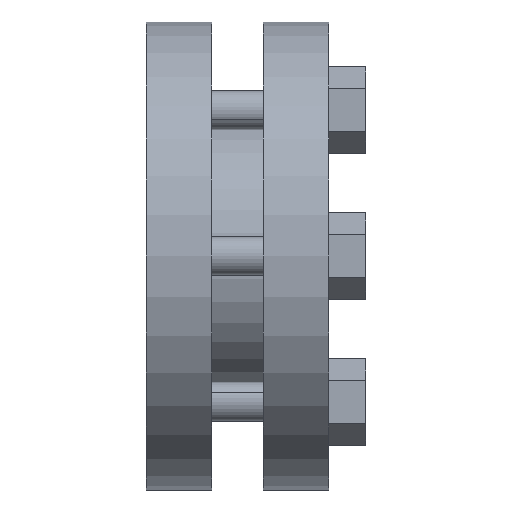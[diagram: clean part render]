
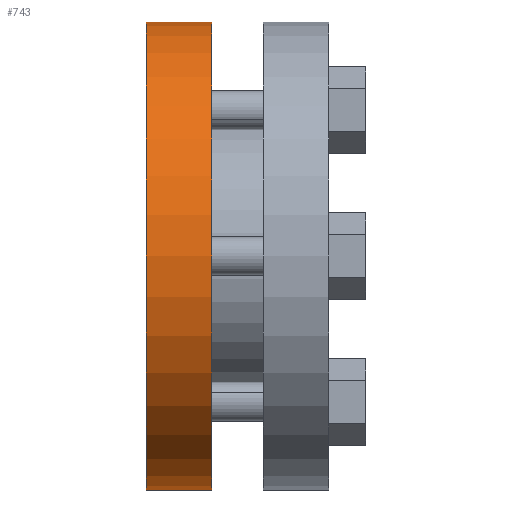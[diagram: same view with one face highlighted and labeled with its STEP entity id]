
A CAD part, front view. The second image highlights one B-rep face of the part: STEP entity #743.
In plain terms, the highlighted cylindrical face has radius 25 mm (diameter 50 mm), a partial arc.
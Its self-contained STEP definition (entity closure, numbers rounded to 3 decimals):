
#408 = EDGE_CURVE ( 'NONE', #872, #764, #1862, .T. ) ;
#711 = ORIENTED_EDGE ( 'NONE', *, *, #861, .T. ) ;
#712 = ORIENTED_EDGE ( 'NONE', *, *, #781, .F. ) ;
#743 = ADVANCED_FACE ( 'NONE', ( #2248 ), #2241, .T. ) ;
#744 = EDGE_LOOP ( 'NONE', ( #745, #746, #711, #712 ) ) ;
#745 = ORIENTED_EDGE ( 'NONE', *, *, #855, .F. ) ;
#746 = ORIENTED_EDGE ( 'NONE', *, *, #408, .T. ) ;
#764 = VERTEX_POINT ( 'NONE', #2435 ) ;
#781 = EDGE_CURVE ( 'NONE', #856, #859, #2371, .T. ) ;
#855 = EDGE_CURVE ( 'NONE', #872, #856, #2565, .T. ) ;
#856 = VERTEX_POINT ( 'NONE', #2561 ) ;
#859 = VERTEX_POINT ( 'NONE', #2555 ) ;
#861 = EDGE_CURVE ( 'NONE', #764, #859, #2554, .T. ) ;
#872 = VERTEX_POINT ( 'NONE', #2522 ) ;
#1858 = DIRECTION ( 'NONE',  ( 0., 0., 1. ) ) ;
#1859 = DIRECTION ( 'NONE',  ( -1., 0., 0. ) ) ;
#1860 = CARTESIAN_POINT ( 'NONE',  ( 7., 0., 0. ) ) ;
#1861 = AXIS2_PLACEMENT_3D ( 'NONE', #1860, #1859, #1858 ) ;
#1862 = CIRCLE ( 'NONE', #1861, 25. ) ;
#2238 = DIRECTION ( 'NONE',  ( 0., 0., 1. ) ) ;
#2239 = DIRECTION ( 'NONE',  ( -1., 0., 0. ) ) ;
#2240 = AXIS2_PLACEMENT_3D ( 'NONE', #2243, #2239, #2238 ) ;
#2241 = CYLINDRICAL_SURFACE ( 'NONE', #2240, 25. ) ;
#2243 = CARTESIAN_POINT ( 'NONE',  ( 0., 0., 0. ) ) ;
#2248 = FACE_OUTER_BOUND ( 'NONE', #744, .T. ) ;
#2367 = DIRECTION ( 'NONE',  ( 0., 0., 1. ) ) ;
#2368 = DIRECTION ( 'NONE',  ( -1., 0., 0. ) ) ;
#2369 = CARTESIAN_POINT ( 'NONE',  ( 0., 0., 0. ) ) ;
#2370 = AXIS2_PLACEMENT_3D ( 'NONE', #2369, #2368, #2367 ) ;
#2371 = CIRCLE ( 'NONE', #2370, 25. ) ;
#2435 = CARTESIAN_POINT ( 'NONE',  ( 7., 0., 25. ) ) ;
#2522 = CARTESIAN_POINT ( 'NONE',  ( 7., 0., -25. ) ) ;
#2551 = DIRECTION ( 'NONE',  ( -1., 0., 0. ) ) ;
#2552 = VECTOR ( 'NONE', #2551, 1000. ) ;
#2553 = CARTESIAN_POINT ( 'NONE',  ( 0., 0., 25. ) ) ;
#2554 = LINE ( 'NONE', #2553, #2552 ) ;
#2555 = CARTESIAN_POINT ( 'NONE',  ( 0., 0., 25. ) ) ;
#2561 = CARTESIAN_POINT ( 'NONE',  ( 0., 0., -25. ) ) ;
#2562 = DIRECTION ( 'NONE',  ( -1., 0., 0. ) ) ;
#2563 = VECTOR ( 'NONE', #2562, 1000. ) ;
#2564 = CARTESIAN_POINT ( 'NONE',  ( 0., 0., -25. ) ) ;
#2565 = LINE ( 'NONE', #2564, #2563 ) ;
